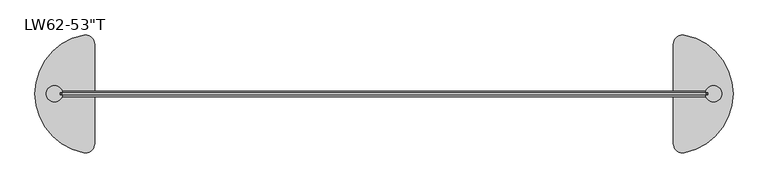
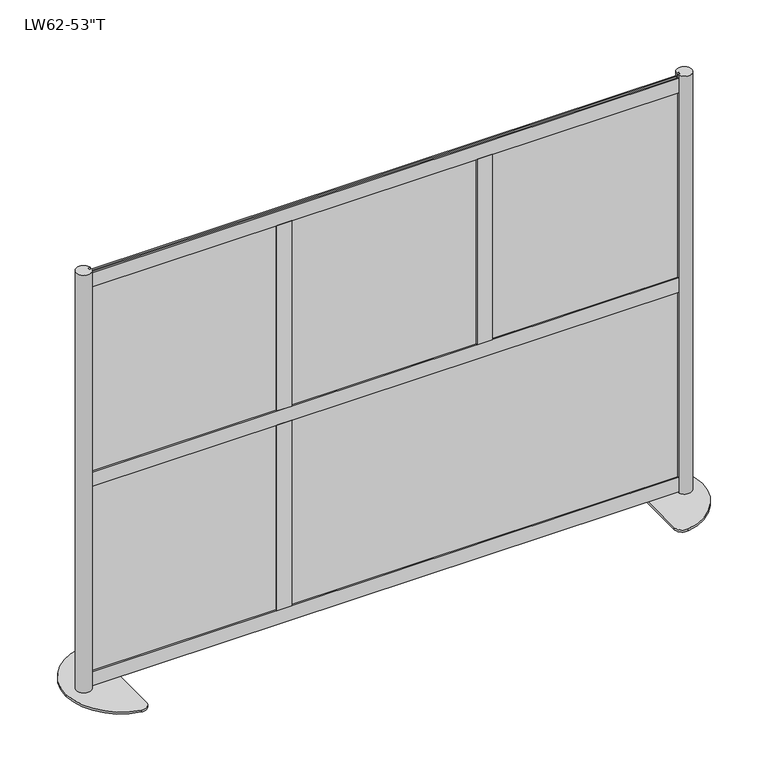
"""IFC4 building model written with IfcOpenShell, lengths in millimetres: furniture geometry."""

import ifcopenshell
import ifcopenshell.guid

model = None  # the IFC model being written
_history = None  # IfcOwnerHistory: only IFC2X3 demands one
_inside = {}  # id of a spatial element -> (the spatial element, [elements in it])
_under = {}  # id of a project, library or spatial element -> (it, [spatial elements below it])
_declared = {}  # id of a project -> (the project, [libraries it declares])
_typed = {}  # id of a type object -> (the type object, [elements of that type])
_made_of = {}  # id of a material, layer set ... -> (it, [elements and type objects made of it])


def new_model(schema):
    """Start an empty IFC model of exactly this schema.

    Asked for "IFC4X3", IfcOpenShell would pick the latest addendum, in which some entities
    have other attributes; the version numbers below select the first issue.
    IFC2X3 requires an IfcOwnerHistory on every rooted entity: one is made here for all.
    """
    global model, _history
    if schema == "IFC4X3":
        model = ifcopenshell.file(schema_version=(4, 3, 0, 0))
    else:
        model = ifcopenshell.file(schema=schema)
    _inside.clear()
    _under.clear()
    _declared.clear()
    _typed.clear()
    _made_of.clear()
    _history = None
    if model.schema == "IFC2X3":
        org = make("IfcOrganization", Name="unknown")
        user = make(
            "IfcPersonAndOrganization",
            ThePerson=make("IfcPerson", FamilyName="unknown"),
            TheOrganization=org,
        )
        app = make(
            "IfcApplication",
            ApplicationDeveloper=org,
            Version="unknown",
            ApplicationFullName="unknown",
            ApplicationIdentifier="unknown",
        )
        _history = make(
            "IfcOwnerHistory",
            OwningUser=user,
            OwningApplication=app,
            ChangeAction="ADDED",
            CreationDate=0,
        )
    return model


def make(cls, **values):
    """One entity of the class cls with the attributes given. An attribute that is None is left unset."""
    return model.create_entity(
        cls, **{name: value for name, value in values.items() if value is not None}
    )


def rooted(cls, **values):
    """An entity with a GlobalId (a new one), such as an element, a storey or a relation."""
    return make(cls, GlobalId=ifcopenshell.guid.new(), OwnerHistory=_history, **values)


def si_unit(unit_type, name, prefix=None):
    """IfcSIUnit, for example si_unit("LENGTHUNIT", "METRE", prefix="MILLI")."""
    return make("IfcSIUnit", UnitType=unit_type, Prefix=prefix, Name=name)


def assignment(units):
    """IfcUnitAssignment: the units of a project."""
    return None if units is None else make("IfcUnitAssignment", Units=units)


def point(xyz):
    """IfcCartesianPoint."""
    return None if xyz is None else make("IfcCartesianPoint", Coordinates=xyz)


def direction(xyz):
    """IfcDirection."""
    return None if xyz is None else make("IfcDirection", DirectionRatios=xyz)


def frame(location, z_axis=None, x_axis=None):
    """IfcAxis2Placement3D, a coordinate frame: its origin and axes. An axis left out is left unset."""
    return make(
        "IfcAxis2Placement3D",
        Location=point(location),
        Axis=direction(z_axis),
        RefDirection=direction(x_axis),
    )


def frame_2d(location, x_axis=None):
    """IfcAxis2Placement2D, a coordinate frame in the plane: its origin and x axis."""
    return make(
        "IfcAxis2Placement2D", Location=point(location), RefDirection=direction(x_axis)
    )


def origin():
    """The frame at (0, 0, 0) with its axes left unset."""
    return frame((0.0, 0.0, 0.0))


def origin_with_axes():
    """The frame at (0, 0, 0) with the z axis (0, 0, 1) and the x axis (1, 0, 0) written out."""
    return frame((0.0, 0.0, 0.0), z_axis=(0.0, 0.0, 1.0), x_axis=(1.0, 0.0, 0.0))


def place(relative_to, where):
    """IfcLocalPlacement: puts the frame where relative to a parent placement (None: the world)."""
    return make(
        "IfcLocalPlacement", PlacementRelTo=relative_to, RelativePlacement=where
    )


def context(
    kind, dimensions, precision=None, world=None, true_north=None, identifier=None
):
    """IfcGeometricRepresentationContext, for example the 3D "Model" context."""
    return make(
        "IfcGeometricRepresentationContext",
        ContextIdentifier=identifier,
        ContextType=kind,
        CoordinateSpaceDimension=dimensions,
        Precision=precision,
        WorldCoordinateSystem=world,
        TrueNorth=true_north,
    )


def project(units=None, contexts=None):
    """IfcProject with its units and contexts."""
    return rooted(
        "IfcProject",
        Name="project",
        RepresentationContexts=contexts,
        UnitsInContext=assignment(units),
    )


def spatial(cls, under=None, at=None, **own):
    """A site, building, storey or space (cls), placed at a placement, below another one or the project."""
    s = rooted(cls, ObjectPlacement=at, **own)
    if under is not None:
        _under.setdefault(under.id(), (under, []))[1].append(s)
    return s


def polyline(points):
    """IfcPolyline through the points."""
    return make("IfcPolyline", Points=[point(p) for p in points])


def circle_curve(where, radius):
    """IfcCircle in the frame where."""
    return make("IfcCircle", Position=where, Radius=radius)


def trimmed(basis, trim1, trim2, sense, master):
    """IfcTrimmedCurve: the piece of a basis curve between two trims."""
    return make(
        "IfcTrimmedCurve",
        BasisCurve=basis,
        Trim1=trim1,
        Trim2=trim2,
        SenseAgreement=sense,
        MasterRepresentation=master,
    )


def segment(curve, same_sense, transition):
    """IfcCompositeCurveSegment."""
    return make(
        "IfcCompositeCurveSegment",
        Transition=transition,
        SameSense=same_sense,
        ParentCurve=curve,
    )


def composite_curve(segments, self_intersect=None):
    """IfcCompositeCurve: segments joined end to end."""
    return make("IfcCompositeCurve", Segments=segments, SelfIntersect=self_intersect)


def outline(outer, holes=None, kind="AREA"):
    """IfcArbitraryClosedProfileDef: a profile drawn as a closed curve; with holes, ...WithVoids."""
    if holes is None:
        return make("IfcArbitraryClosedProfileDef", ProfileType=kind, OuterCurve=outer)
    return make(
        "IfcArbitraryProfileDefWithVoids",
        ProfileType=kind,
        OuterCurve=outer,
        InnerCurves=holes,
    )


def extrude(swept, where, along, depth):
    """IfcExtrudedAreaSolid: the profile swept, set in the frame where, extruded along a direction by depth."""
    return make(
        "IfcExtrudedAreaSolid",
        SweptArea=swept,
        Position=where,
        ExtrudedDirection=direction(along),
        Depth=depth,
    )


def shape(context_of_items, identifier, shape_type, items):
    """IfcShapeRepresentation: the items that make up one representation, for example the "Body"."""
    return make(
        "IfcShapeRepresentation",
        ContextOfItems=context_of_items,
        RepresentationIdentifier=identifier,
        RepresentationType=shape_type,
        Items=items,
    )


def source(mapping_origin, context_of_items, identifier, shape_type, items):
    """IfcRepresentationMap: a shape defined once, which mapped items show again and again."""
    return make(
        "IfcRepresentationMap",
        MappingOrigin=mapping_origin,
        MappedRepresentation=shape(context_of_items, identifier, shape_type, items),
    )


def transform(
    local_origin,
    x_axis=None,
    y_axis=None,
    z_axis=None,
    scale=None,
    scale2=None,
    scale3=None,
    uniform=True,
):
    """IfcCartesianTransformationOperator3D, or its non-uniform kind. x_axis, y_axis, z_axis: its Axis1, 2, 3."""
    if uniform:
        return make(
            "IfcCartesianTransformationOperator3D",
            Axis1=direction(x_axis),
            Axis2=direction(y_axis),
            LocalOrigin=point(local_origin),
            Scale=scale,
            Axis3=direction(z_axis),
        )
    return make(
        "IfcCartesianTransformationOperator3DnonUniform",
        Axis1=direction(x_axis),
        Axis2=direction(y_axis),
        LocalOrigin=point(local_origin),
        Scale=scale,
        Axis3=direction(z_axis),
        Scale2=scale2,
        Scale3=scale3,
    )


def mapped(mapping_source, mapping_target):
    """IfcMappedItem: shows the shape of a source again, moved by a transform."""
    return make(
        "IfcMappedItem", MappingSource=mapping_source, MappingTarget=mapping_target
    )


def made_of(thing, what):
    """Note that an element or type object is made of a material, layer set ...; save() writes the relation."""
    if what is not None:
        _made_of.setdefault(what.id(), (what, []))[1].append(thing)
    return thing


def element(
    cls,
    number,
    at=None,
    inside=None,
    cuts=None,
    type_object=None,
    material=None,
    context=None,
    identifier="Body",
    shape_type=None,
    held_by="IfcProductDefinitionShape",
    body=None,
    shapes=None,
    **own,
):
    """One element of the class cls, such as IfcWall. Its Tag is "e" and its number.

    at: its placement. inside: the storey or other place that contains it. cuts: it is an
    opening in that element (IfcRelVoidsElement). A single representation is given by context,
    identifier, shape_type and body (its items); several are given by shapes. held_by: the class
    of the entity that holds the representations. save() writes the other relations.
    """
    e = rooted(cls, Tag="e%d" % number, ObjectPlacement=at, **own)
    if body is not None:
        shapes = [shape(context, identifier, shape_type, body)]
    if shapes is not None:
        e.Representation = make(held_by, Representations=shapes)
    if inside is not None:
        _inside.setdefault(inside.id(), (inside, []))[1].append(e)
    if cuts is not None:
        rooted(
            "IfcRelVoidsElement", RelatingBuildingElement=cuts, RelatedOpeningElement=e
        )
    if type_object is not None:
        _typed.setdefault(type_object.id(), (type_object, []))[1].append(e)
    return made_of(e, material)


def aggregate(whole, parts):
    """IfcRelAggregates: a whole, such as a stair, and the parts it consists of."""
    return rooted("IfcRelAggregates", RelatingObject=whole, RelatedObjects=parts)


def save(model, path):
    """Write the relations noted so far, then the file.

    IfcRelAggregates (storeys below a building ...), IfcRelContainedInSpatialStructure (elements
    in a storey), IfcRelDefinesByType, IfcRelAssociatesMaterial and IfcRelDeclares: one each for
    every whole, place, type object, material and project.
    """
    for whole, parts in _under.values():
        aggregate(whole, parts)
    for where, things in _inside.values():
        rooted(
            "IfcRelContainedInSpatialStructure",
            RelatedElements=things,
            RelatingStructure=where,
        )
    for kind, things in _typed.values():
        rooted("IfcRelDefinesByType", RelatedObjects=things, RelatingType=kind)
    for what, things in _made_of.values():
        rooted("IfcRelAssociatesMaterial", RelatedObjects=things, RelatingMaterial=what)
    for by, libraries in _declared.values():
        rooted("IfcRelDeclares", RelatingContext=by, RelatedDefinitions=libraries)
    model.write(path)


def furniture_134b2a37(model_context):
    return source(origin(), model_context, "Body", "SweptSolid", [
        extrude(outline(polyline([(-897.2933616, 1.5875), (-319.4433608, 1.5875), (-319.4435344, -1.5875), (-897.2935353, -1.5875), (-897.2933616, 1.5875)])), frame((0.0, 0.0, 689.2671), z_axis=(0.0, 0.0, 1.0), x_axis=(1.0, 0.0, 0.0)), (0.0, 0.0, 1.0), 608.965),
        extrude(outline(polyline([(-897.2933616, 1.5875), (-319.4433608, 1.5875), (-319.4435344, -1.5875), (-897.2935353, -1.5875), (-897.2933616, 1.5875)])), frame((0.0, 0.0, 49.2633), z_axis=(0.0, 0.0, 1.0), x_axis=(1.0, 0.0, 0.0)), (0.0, 0.0, 1.0), 608.965),
        extrude(outline(polyline([(-296.520037, 1.5875), (281.3299638, 1.5875), (281.3297902, -1.5875), (-296.5202107, -1.5875), (-296.520037, 1.5875)])), frame((0.0, 0.0, 689.2671), z_axis=(0.0, 0.0, 1.0), x_axis=(1.0, 0.0, 0.0)), (0.0, 0.0, 1.0), 608.965),
        extrude(outline(polyline([(316.9532876, 1.5875), (894.8032884, 1.5875), (894.8031147, -1.5875), (316.9531139, -1.5875), (316.9532876, 1.5875)])), frame((0.0, 0.0, 689.2671), z_axis=(0.0, 0.0, 1.0), x_axis=(1.0, 0.0, 0.0)), (0.0, 0.0, 1.0), 608.965),
        extrude(outline(polyline([(893.3285387, -1.531862), (-295.7089613, -1.531862), (-295.7089613, 1.643138), (893.3285387, 1.643138), (893.3285387, -1.531862)])), frame((0.0, 0.0, 49.2132135), z_axis=(0.0, 0.0, 1.0), x_axis=(1.0, 0.0, 0.0)), (0.0, 0.0, 1.0), 608.965),
        extrude(outline(polyline([(323.8118123, 3.556), (316.6998123, 3.556), (316.6998123, -3.556), (323.8118123, -3.556), (323.8118123, -7.6327), (278.5490123, -7.6327), (278.5490123, -3.556), (285.6610123, -3.556), (285.6610123, 3.556), (278.5490123, 3.556), (278.5490123, 7.6327), (323.8118123, 7.6327), (323.8118123, 3.556)])), frame((0.0, 0.0, 696.3791), z_axis=(0.0, 0.0, 1.0), x_axis=(1.0, 0.0, 0.0)), (0.0, 0.0, 1.0), 594.741),
        extrude(outline(polyline([(-329.3680623, 3.556), (-329.3680623, 7.6327), (-284.1052623, 7.6327), (-284.1052623, 3.556), (-291.2172623, 3.556), (-291.2172623, -3.556), (-284.1052623, -3.556), (-284.1052623, -7.6327), (-329.3680623, -7.6327), (-329.3680623, -3.556), (-322.2560623, -3.556), (-322.2560623, 3.556), (-329.3680623, 3.556)])), frame((0.0, 0.0, 696.3791), z_axis=(0.0, 0.0, 1.0), x_axis=(1.0, 0.0, 0.0)), (0.0, 0.0, 1.0), 594.741),
        extrude(outline(polyline([(-329.3680623, 3.556), (-329.3680623, 7.6327), (-284.1052623, 7.6327), (-284.1052623, 3.556), (-291.2172623, 3.556), (-291.2172623, -3.556), (-284.1052623, -3.556), (-284.1052623, -7.6327), (-329.3680623, -7.6327), (-329.3680623, -3.556), (-322.2560623, -3.556), (-322.2560623, 3.556), (-329.3680623, 3.556)])), frame((0.0, 0.0, 56.3753), z_axis=(0.0, 0.0, 1.0), x_axis=(1.0, 0.0, 0.0)), (0.0, 0.0, 1.0), 594.741),
        extrude(outline(polyline([(3.556, 651.1163), (3.556, 658.2283), (-3.556, 658.2283), (-3.556, 651.1163), (-7.6327, 651.1163), (-7.6327, 696.3791), (-3.556, 696.3791), (-3.556, 689.2671), (3.556, 689.2671), (3.556, 696.3791), (7.6327, 696.3791), (7.6327, 651.1163), (3.556, 651.1163)])), frame((-889.7874, 0.0, 0.0), z_axis=(1.0, 0.0, 0.0), x_axis=(0.0, 1.0, 0.0)), (0.0, 0.0, 1.0), 1779.5748),
        extrude(outline(polyline([(3.556, 11.1125), (3.556, 18.2245), (-3.556, 18.2245), (-3.556, 11.1125), (-7.6327, 11.1125), (-7.6327, 56.3753), (-3.556, 56.3753), (-3.556, 49.2633), (3.556, 49.2633), (3.556, 56.3753), (7.6327, 56.3753), (7.6327, 11.1125), (3.556, 11.1125)])), frame((-889.8636, 0.0, 0.0), z_axis=(1.0, 0.0, 0.0), x_axis=(0.0, 1.0, 0.0)), (0.0, 0.0, 1.0), 1779.7272),
        extrude(outline(polyline([(3.556, 1291.1200292), (3.556, 1298.2320292), (-3.556, 1298.2320292), (-3.556, 1291.1200292), (-7.6327, 1291.1200292), (-7.6327, 1336.3828292), (-3.556, 1336.3828292), (-3.556, 1329.2708292), (3.556, 1329.2708292), (3.556, 1336.3828292), (7.6327, 1336.3828292), (7.6327, 1291.1200292), (3.556, 1291.1200292)])), frame((-889.8636, 0.0, 0.0), z_axis=(1.0, 0.0, 0.0), x_axis=(0.0, 1.0, 0.0)), (0.0, 0.0, 1.0), 1779.7272),
        extrude(outline(composite_curve([segment(polyline([(889.8636, -7.7568093), (889.8636, -3.556), (896.9756, -3.556), (896.9756, 3.556), (889.8636, 3.556), (889.8636, 7.7568093)]), True, "CONTINUOUS"), segment(trimmed(circle_curve(frame_2d((910.9665837, 0.0)), 22.4834163), [point((889.8636, 7.7568093))], [point((889.8636, -7.7568093))], False, "CARTESIAN"), True, "CONTINUOUS")], self_intersect=False)), frame((0.0, 0.0, 6.35), z_axis=(0.0, 0.0, 1.0), x_axis=(1.0, 0.0, 0.0)), (0.0, 0.0, 1.0), 1339.85),
        extrude(outline(composite_curve([segment(polyline([(800.1, -137.3715036), (800.1, 137.3715036)]), True, "CONTINUOUS"), segment(trimmed(circle_curve(frame_2d((825.5, 137.3715036)), 25.4), [point((800.1, 137.3715036))], [point((830.1181818, 162.3481406))], False, "CARTESIAN"), True, "CONTINUOUS"), segment(trimmed(circle_curve(frame_2d((800.1, 0.0)), 165.1), [point((830.1181818, 162.3481406))], [point((965.2, 0.0))], False, "CARTESIAN"), True, "CONTINUOUS"), segment(trimmed(circle_curve(frame_2d((800.1, 0.0)), 165.1), [point((965.2, 0.0))], [point((830.1181818, -162.3481406))], False, "CARTESIAN"), True, "CONTINUOUS"), segment(trimmed(circle_curve(frame_2d((825.5, -137.3715036)), 25.4), [point((830.1181818, -162.3481406))], [point((800.1, -137.3715036))], False, "CARTESIAN"), True, "CONTINUOUS")], self_intersect=False)), origin_with_axes(), (0.0, 0.0, 1.0), 6.35),
        extrude(outline(composite_curve([segment(trimmed(circle_curve(frame_2d((-910.9665837, 0.0)), 22.4834163), [point((-889.8636, -7.7568093))], [point((-889.8636, 7.7568093))], False, "CARTESIAN"), True, "CONTINUOUS"), segment(polyline([(-889.8636, 7.7568093), (-889.8636, 3.556), (-896.9756, 3.556), (-896.9756, -3.556), (-889.8636, -3.556), (-889.8636, -7.7568093)]), True, "CONTINUOUS")], self_intersect=False)), frame((0.0, 0.0, 6.35), z_axis=(0.0, 0.0, 1.0), x_axis=(1.0, 0.0, 0.0)), (0.0, 0.0, 1.0), 1339.85),
        extrude(outline(composite_curve([segment(trimmed(circle_curve(frame_2d((-825.5, -137.3715036)), 25.4), [point((-800.1, -137.3715036))], [point((-830.1181818, -162.3481406))], False, "CARTESIAN"), True, "CONTINUOUS"), segment(trimmed(circle_curve(frame_2d((-800.1, 0.0)), 165.1), [point((-830.1181818, -162.3481406))], [point((-965.2, 0.0))], False, "CARTESIAN"), True, "CONTINUOUS"), segment(trimmed(circle_curve(frame_2d((-800.1, 0.0)), 165.1), [point((-965.2, 0.0))], [point((-830.1181818, 162.3481406))], False, "CARTESIAN"), True, "CONTINUOUS"), segment(trimmed(circle_curve(frame_2d((-825.5, 137.3715036)), 25.4), [point((-830.1181818, 162.3481406))], [point((-800.1, 137.3715036))], False, "CARTESIAN"), True, "CONTINUOUS"), segment(polyline([(-800.1, 137.3715036), (-800.1, -137.3715036)]), True, "CONTINUOUS")], self_intersect=False)), origin_with_axes(), (0.0, 0.0, 1.0), 6.35),
    ])


if __name__ == "__main__":
    model = new_model("IFC4")
    model_context = context("Model", 3, world=origin())
    ifc_project = project(units=[si_unit("LENGTHUNIT", "METRE", prefix="MILLI")], contexts=[model_context])
    site = spatial("IfcSite", under=ifc_project)
    building = spatial("IfcBuilding", under=site)
    placement = place(None, origin())
    furniture_shape = furniture_134b2a37(model_context)
    element("IfcFurniture", 1, ObjectType="Loft_Wall-Framewall-76 : LW62-53\"T", at=placement, inside=building, context=model_context, shape_type="MappedRepresentation", body=[
        mapped(furniture_shape, transform((0.0, 0.0, 0.0), x_axis=(1.0, 0.0, 0.0), y_axis=(0.0, 1.0, 0.0), z_axis=(0.0, 0.0, 1.0))),
    ])
    save(model, "model.ifc")
